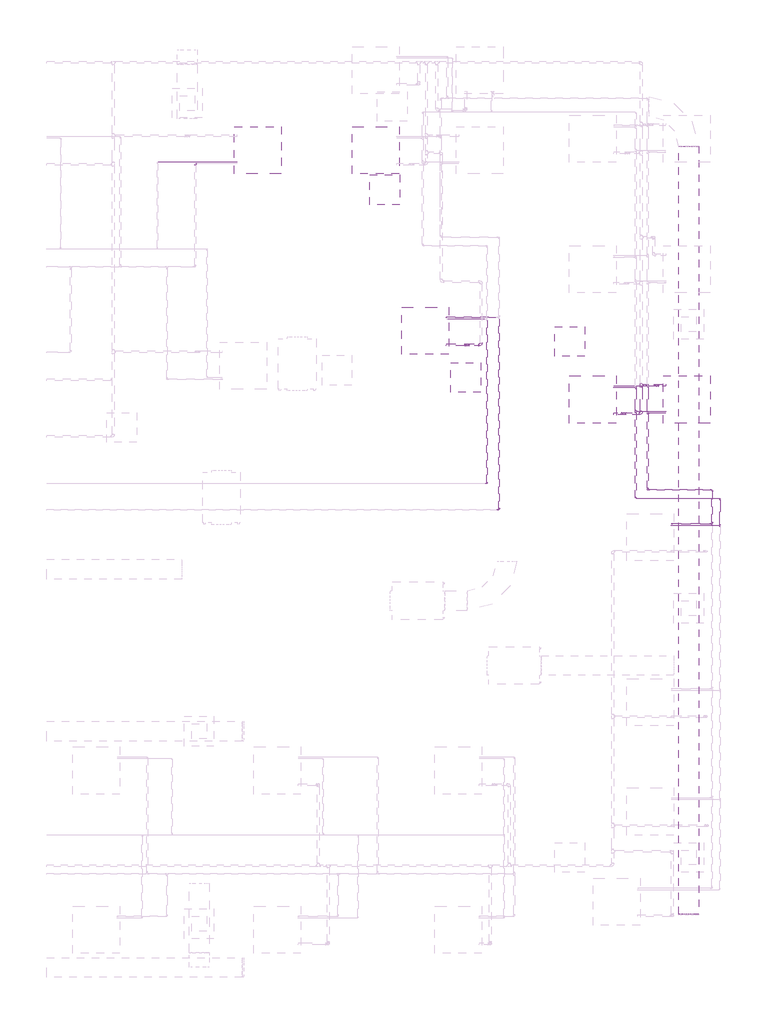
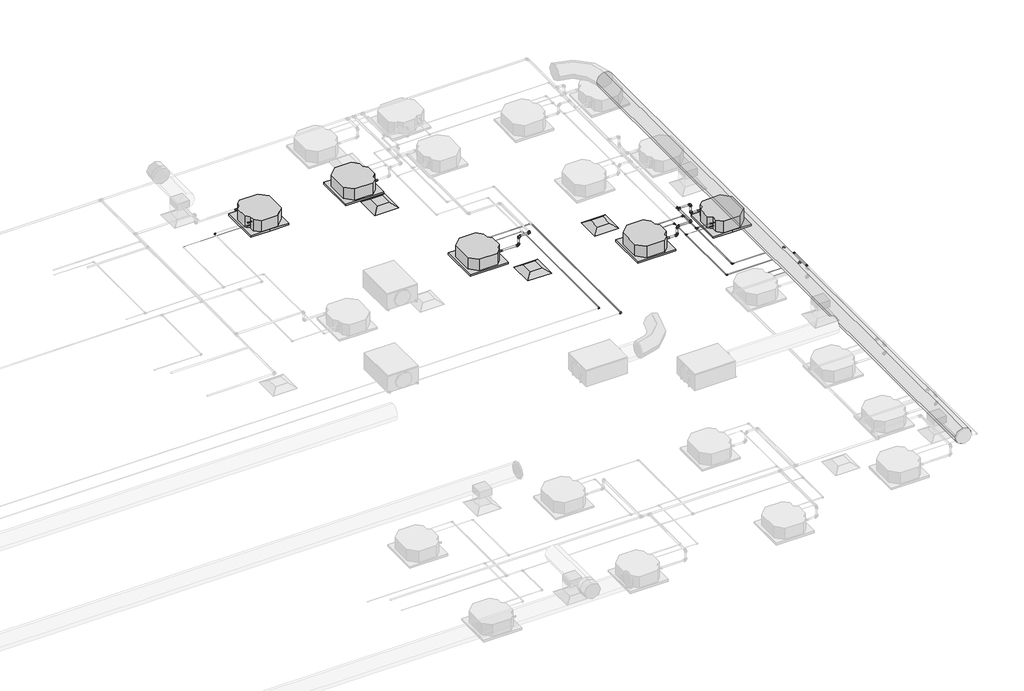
# One storey, part 19 of 22: 36 pipe fittings, 29 pipe segments, 5 proxies, 3 air terminals, 1 duct segment.
"""IFC4 building model written with IfcOpenShell, lengths in millimetres."""

from ifc_helpers import new_model, si_unit, point, frame, frame_2d, origin, place, context, project, spatial, circle_curve, trimmed, segment, composite_curve, outline, extrude, transform, mapped, element, save
from components import air_terminal_ff221211, mechanical_equipment_53173f38, pipe_fitting_144f4440, pipe_fitting_14eb6376, pipe_fitting_8df3e382, pipe_fitting_a6c02e45, pipe_fitting_b4c8926b, pipe_fitting_16c020f5, pipe_fitting_0e110a5f, pipe_fitting_afe73776, pipe_fitting_09966660, pipe_fitting_501e5992, pipe_fitting_59d1f3e3, pipe_fitting_58ab9b66, pipe_fitting_da16c1b3, pipe_fitting_5a6d96d3, pipe_fitting_3e80353c

model = new_model("IFC4")

# Units and contexts
model_context = context("Model", 3, world=origin())
ifc_project = project(units=[si_unit("LENGTHUNIT", "METRE", prefix="MILLI")], contexts=[model_context])

# Site, building, storey
site = spatial("IfcSite", under=ifc_project)
building = spatial("IfcBuilding", under=site)
storey = spatial("IfcBuildingStorey", under=building, Name="Nível 2", Elevation=3880.0)

# Air terminals
placement = place(None, origin())
air_terminal_shape = air_terminal_ff221211(model_context)
element("IfcAirTerminal", 1, ObjectType="M_Difusor de retorno : 600 x 600 Face 300 x 300 Conexão", at=placement, inside=storey, context=model_context, shape_type="MappedRepresentation", body=[
    mapped(air_terminal_shape, transform((27714.7064473, 3874.8993981, 6880.0), x_axis=(-1.0, 0.0, 0.0), y_axis=(0.0, -1.0, 0.0), z_axis=(0.0, 0.0, 1.0))),
])
element("IfcAirTerminal", 2, ObjectType="M_Difusor de retorno : 600 x 600 Face 300 x 300 Conexão", at=placement, inside=storey, context=model_context, shape_type="MappedRepresentation", body=[
    mapped(air_terminal_shape, transform((23981.0509329, 6937.3539749, 6880.0), x_axis=(0.0, -1.0, 0.0), y_axis=(1.0, 0.0, 0.0), z_axis=(0.0, 0.0, 1.0))),
])
element("IfcAirTerminal", 3, ObjectType="M_Difusor de retorno : 600 x 600 Face 300 x 300 Conexão", at=placement, inside=storey, context=model_context, shape_type="MappedRepresentation", body=[
    mapped(air_terminal_shape, transform((25616.9358971, 3144.7054459, 6880.0), x_axis=(-1.0, 0.0, 0.0), y_axis=(0.0, -1.0, 0.0), z_axis=(0.0, 0.0, 1.0))),
])

# Proxies
mechanical_equipment_shape = mechanical_equipment_53173f38(model_context)
element("IfcBuildingElementProxy", 4, Name="Midea_VRF_Indoor_4-way Cassette_MI-90(100,112,140)Q4_DHN1-D (2nd DC) : MI2-140Q4DHN1", ObjectType="Midea_VRF_Indoor_4-way Cassette_MI-90(100,112,140)Q4_DHN1-D (2nd DC) : MI2-140Q4DHN1", at=placement, inside=storey, context=model_context, shape_type="MappedRepresentation", body=[
    mapped(mechanical_equipment_shape, transform((21420.3085305, 7738.4946683, 6880.0), x_axis=(-1.0, 0.0, 0.0), y_axis=(0.0, -1.0, 0.0), z_axis=(0.0, 0.0, 1.0))),
])
element("IfcBuildingElementProxy", 5, Name="Midea_VRF_Indoor_4-way Cassette_MI-90(100,112,140)Q4_DHN1-D (2nd DC) : MI2-140Q4DHN1", ObjectType="Midea_VRF_Indoor_4-way Cassette_MI-90(100,112,140)Q4_DHN1-D (2nd DC) : MI2-140Q4DHN1", at=placement, inside=storey, context=model_context, shape_type="MappedRepresentation", body=[
    mapped(mechanical_equipment_shape, transform((24797.5040419, 4090.4430597, 6880.0), x_axis=(1.0, 0.0, 0.0), y_axis=(0.0, 1.0, 0.0), z_axis=(0.0, 0.0, 1.0))),
])
element("IfcBuildingElementProxy", 6, Name="Midea_VRF_Indoor_4-way Cassette_MI-90(100,112,140)Q4_DHN1-D (2nd DC) : MI2-140Q4DHN1", ObjectType="Midea_VRF_Indoor_4-way Cassette_MI-90(100,112,140)Q4_DHN1-D (2nd DC) : MI2-140Q4DHN1", at=placement, inside=storey, context=model_context, shape_type="MappedRepresentation", body=[
    mapped(mechanical_equipment_shape, transform((23797.5040419, 7738.4946683, 6880.0), x_axis=(1.0, 0.0, 0.0), y_axis=(0.0, 1.0, 0.0), z_axis=(0.0, 0.0, 1.0))),
])
element("IfcBuildingElementProxy", 7, Name="Midea_VRF_Indoor_4-way Cassette_MI-90(100,112,140)Q4_DHN1-D (2nd DC) : MI2-140Q4DHN1", ObjectType="Midea_VRF_Indoor_4-way Cassette_MI-90(100,112,140)Q4_DHN1-D (2nd DC) : MI2-140Q4DHN1", at=placement, inside=storey, context=model_context, shape_type="MappedRepresentation", body=[
    mapped(mechanical_equipment_shape, transform((28178.6922103, 2703.5393119, 6880.0), x_axis=(1.0, 0.0, 0.0), y_axis=(0.0, 1.0, 0.0), z_axis=(0.0, 0.0, 1.0))),
])
element("IfcBuildingElementProxy", 8, Name="Midea_VRF_Indoor_4-way Cassette_MI-90(100,112,140)Q4_DHN1-D (2nd DC) : MI2-140Q4DHN1", ObjectType="Midea_VRF_Indoor_4-way Cassette_MI-90(100,112,140)Q4_DHN1-D (2nd DC) : MI2-140Q4DHN1", at=placement, inside=storey, context=model_context, shape_type="MappedRepresentation", body=[
    mapped(mechanical_equipment_shape, transform((30073.0094066, 2703.5393119, 6880.0), x_axis=(-1.0, 0.0, 0.0), y_axis=(0.0, -1.0, 0.0), z_axis=(0.0, 0.0, 1.0))),
])

# Duct segment
element("IfcDuctSegment", 9, ObjectType="Torneiras / Raio curto", at=placement, inside=storey, context=model_context, shape_type="SweptSolid", body=[
    extrude(outline(composite_curve([segment(trimmed(circle_curve(frame_2d((7501.0, 30114.7064473)), 200.0), [point((7501.0, 29914.7064473))], [point((7301.0, 30114.7064473))], False, "CARTESIAN"), True, "CONTINUOUS"), segment(trimmed(circle_curve(frame_2d((7501.0, 30114.7064473)), 200.0), [point((7301.0, 30114.7064473))], [point((7501.0, 30314.7064473))], False, "CARTESIAN"), True, "CONTINUOUS"), segment(trimmed(circle_curve(frame_2d((7501.0, 30114.7064473)), 200.0), [point((7501.0, 30314.7064473))], [point((7701.0, 30114.7064473))], False, "CARTESIAN"), True, "CONTINUOUS"), segment(trimmed(circle_curve(frame_2d((7501.0, 30114.7064473)), 200.0), [point((7701.0, 30114.7064473))], [point((7501.0, 29914.7064473))], False, "CARTESIAN"), True, "CONTINUOUS")], self_intersect=False)), frame((0.0, -7683.3010158, 0.0), z_axis=(0.0, 1.0, 0.0), x_axis=(0.0, 0.0, 1.0)), (0.0, 0.0, 1.0), 15500.0),
])

# Pipe fittings
pipe_fitting_shape = pipe_fitting_144f4440(model_context)
element("IfcPipeFitting", 10, ObjectType="Cotovelo - PVC - CW : Padrão", at=placement, inside=storey, context=model_context, shape_type="MappedRepresentation", body=[
    mapped(pipe_fitting_shape, transform((28803.6922102, 2418.5393119, 7360.6313654), x_axis=(0.0, 0.0, 1.0), y_axis=(1.0, 0.0, 0.0), z_axis=(0.0, 1.0, 0.0))),
])
element("IfcPipeFitting", 11, ObjectType="Cotovelo - PVC - CW : Padrão", at=placement, inside=storey, context=model_context, shape_type="MappedRepresentation", body=[
    mapped(pipe_fitting_shape, transform((29157.3882959, 2418.5393119, 7360.6313654), x_axis=(1.0, 0.0, 0.0), y_axis=(0.0, 1.0, 0.0), z_axis=(0.0, 0.0, 1.0))),
])
element("IfcPipeFitting", 12, ObjectType="Cotovelo - PVC - CW : Padrão", at=placement, inside=storey, context=model_context, shape_type="MappedRepresentation", body=[
    mapped(pipe_fitting_shape, transform((29468.0094068, 2988.5393119, 7360.6313654), x_axis=(0.0, 0.0, 1.0), y_axis=(-1.0, 0.0, 0.0), z_axis=(0.0, -1.0, 0.0))),
])
element("IfcPipeFitting", 13, ObjectType="Cotovelo - PVC - CW : Padrão", at=placement, inside=storey, context=model_context, shape_type="MappedRepresentation", body=[
    mapped(pipe_fitting_shape, transform((25922.5040418, 3805.4430597, 7360.6313654), x_axis=(1.0, 0.0, 0.0), y_axis=(0.0, 1.0, 0.0), z_axis=(0.0, 0.0, 1.0))),
])
element("IfcPipeFitting", 14, ObjectType="Cotovelo - PVC - CW : Padrão", at=placement, inside=storey, context=model_context, shape_type="MappedRepresentation", body=[
    mapped(pipe_fitting_shape, transform((25642.5040418, 3805.4430597, 7360.6313654), x_axis=(0.0, 0.0, 1.0), y_axis=(1.0, 0.0, 0.0), z_axis=(0.0, 1.0, 0.0))),
])
pipe_fitting_2_shape = pipe_fitting_14eb6376(model_context)
element("IfcPipeFitting", 15, ObjectType="Tê de redução - PVC - CW : Padrão", at=placement, inside=storey, context=model_context, shape_type="MappedRepresentation", body=[
    mapped(pipe_fitting_2_shape, transform((29157.3882959, 2988.5393119, 7360.6313654), x_axis=(0.0, 1.0, 0.0), y_axis=(-1.0, 0.0, 0.0), z_axis=(0.0, 0.0, 1.0))),
])
pipe_fitting_3_shape = pipe_fitting_8df3e382(model_context)
element("IfcPipeFitting", 16, ObjectType="Cotovelo - PVC - CW : Padrão", at=placement, inside=storey, context=model_context, shape_type="MappedRepresentation", body=[
    mapped(pipe_fitting_3_shape, transform((28803.6922102, 2418.5393119, 7132.3), x_axis=(0.9999999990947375, 0.0, -4.255026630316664e-05), y_axis=(4.255026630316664e-05, 0.0, 0.9999999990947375), z_axis=(0.0, -1.0, 0.0))),
])
pipe_fitting_4_shape = pipe_fitting_a6c02e45(model_context)
element("IfcPipeFitting", 17, ObjectType="Cotovelo - PVC - CW : Padrão", at=placement, inside=storey, context=model_context, shape_type="MappedRepresentation", body=[
    mapped(pipe_fitting_4_shape, transform((29468.0094068, 2988.5393119, 7132.3), x_axis=(-0.9999999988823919, 0.0, -4.72780736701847e-05), y_axis=(-4.72780736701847e-05, 0.0, 0.9999999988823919), z_axis=(0.0, 1.0, 0.0))),
])
pipe_fitting_5_shape = pipe_fitting_b4c8926b(model_context)
element("IfcPipeFitting", 18, ObjectType="Cotovelo - PVC - CW : Padrão", at=placement, inside=storey, context=model_context, shape_type="MappedRepresentation", body=[
    mapped(pipe_fitting_5_shape, transform((25642.5040418, 3805.4430597, 7132.3), x_axis=(0.9999999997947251, 0.0, -2.0262031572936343e-05), y_axis=(2.0262031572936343e-05, 0.0, 0.9999999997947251), z_axis=(0.0, -1.0, 0.0))),
])
pipe_fitting_6_shape = pipe_fitting_16c020f5(model_context)
element("IfcPipeFitting", 19, ObjectType="Cotovelo - Soldado - CU : Padrão", at=placement, inside=storey, context=model_context, shape_type="MappedRepresentation", body=[
    mapped(pipe_fitting_6_shape, transform((20155.3085305, 7465.2838546, 7132.3), x_axis=(-0.9999999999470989, 0.0, -1.0286027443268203e-05), y_axis=(0.0, -1.0, 0.0), z_axis=(-1.0286027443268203e-05, 0.0, 0.9999999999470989))),
])
pipe_fitting_7_shape = pipe_fitting_0e110a5f(model_context)
element("IfcPipeFitting", 20, ObjectType="Cotovelo - Soldado - CU : Padrão", at=placement, inside=storey, context=model_context, shape_type="MappedRepresentation", body=[
    mapped(pipe_fitting_7_shape, transform((30586.1108591, 879.9222462, 7132.3), x_axis=(0.0, 1.0, 0.0), y_axis=(-1.0, 0.0, 0.0), z_axis=(0.0, 0.0, 1.0))),
])
element("IfcPipeFitting", 21, ObjectType="Cotovelo - Soldado - CU : Padrão", at=placement, inside=storey, context=model_context, shape_type="MappedRepresentation", body=[
    mapped(pipe_fitting_7_shape, transform((29286.1108591, 879.9222462, 7132.3), x_axis=(0.0, -1.0, 0.0), y_axis=(1.0, 0.0, 0.0), z_axis=(0.0, 0.0, 1.0))),
])
element("IfcPipeFitting", 22, ObjectType="Cotovelo - Soldado - CU : Padrão", at=placement, inside=storey, context=model_context, shape_type="MappedRepresentation", body=[
    mapped(pipe_fitting_7_shape, transform((26286.1108591, 473.4586233, 7132.3), x_axis=(1.0, 0.0, 0.0), y_axis=(0.0, 1.0, 0.0), z_axis=(0.0, 0.0, 1.0))),
])
pipe_fitting_8_shape = pipe_fitting_afe73776(model_context)
element("IfcPipeFitting", 23, ObjectType="Bucha de redução reta - Soldada - CU : Padrão", at=placement, inside=storey, context=model_context, shape_type="MappedRepresentation", body=[
    mapped(pipe_fitting_8_shape, transform((29316.2713591, 2430.3284982, 7132.3007349), x_axis=(0.9999999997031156, 0.0, 2.4367374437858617e-05), y_axis=(0.0, 1.0000000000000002, 0.0), z_axis=(-2.4367374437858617e-05, 0.0, 0.9999999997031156))),
])
element("IfcPipeFitting", 24, ObjectType="Bucha de redução reta - Soldada - CU : Padrão", at=placement, inside=storey, context=model_context, shape_type="MappedRepresentation", body=[
    mapped(pipe_fitting_8_shape, transform((29255.9503592, 2976.7501256, 7132.3003888), x_axis=(-0.9999999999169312, 0.0, 1.2889435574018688e-05), y_axis=(0.0, -1.0, 0.0), z_axis=(1.2889435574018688e-05, 0.0, 0.9999999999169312))),
])
element("IfcPipeFitting", 25, ObjectType="Bucha de redução reta - Soldada - CU : Padrão", at=placement, inside=storey, context=model_context, shape_type="MappedRepresentation", body=[
    mapped(pipe_fitting_8_shape, transform((30555.9503592, 196.0476784, 7132.3008348), x_axis=(-0.9999999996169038, 0.0, 2.768018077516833e-05), y_axis=(0.0, -1.0, 0.0), z_axis=(2.768018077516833e-05, 0.0, 0.9999999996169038))),
])
pipe_fitting_9_shape = pipe_fitting_09966660(model_context)
element("IfcPipeFitting", 26, ObjectType="Tê - Soldado - CU : Padrão", at=placement, inside=storey, context=model_context, shape_type="MappedRepresentation", body=[
    mapped(pipe_fitting_9_shape, transform((29286.1108591, 2430.3284982, 7132.3), x_axis=(0.0, -1.0, 0.0), y_axis=(-0.9999999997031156, 0.0, -2.4367374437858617e-05), z_axis=(2.4367374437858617e-05, 0.0, -0.9999999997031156))),
])
element("IfcPipeFitting", 27, ObjectType="Tê - Soldado - CU : Padrão", at=placement, inside=storey, context=model_context, shape_type="MappedRepresentation", body=[
    mapped(pipe_fitting_9_shape, transform((29286.1108591, 2976.7501256, 7132.3), x_axis=(0.0, -1.0, 0.0), y_axis=(0.9999999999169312, 0.0, -1.2889435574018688e-05), z_axis=(1.2889435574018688e-05, 0.0, 0.9999999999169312))),
])
element("IfcPipeFitting", 28, ObjectType="Tê - Soldado - CU : Padrão", at=placement, inside=storey, context=model_context, shape_type="MappedRepresentation", body=[
    mapped(pipe_fitting_9_shape, transform((30586.1108591, 196.0476784, 7132.3), x_axis=(0.0, -1.0, 0.0), y_axis=(0.9999999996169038, 0.0, -2.768018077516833e-05), z_axis=(2.768018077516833e-05, 0.0, 0.9999999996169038))),
])
pipe_fitting_10_shape = pipe_fitting_501e5992(model_context)
element("IfcPipeFitting", 29, ObjectType="Bucha de redução reta - Soldada - CU : Padrão", at=placement, inside=storey, context=model_context, shape_type="MappedRepresentation", body=[
    mapped(pipe_fitting_10_shape, transform((25235.1629419, 4363.6538733, 7132.3084075), x_axis=(-0.9999999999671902, 0.0, 8.100591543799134e-06), y_axis=(0.0, -1.0, 0.0), z_axis=(8.100591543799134e-06, 0.0, 0.9999999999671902))),
])
element("IfcPipeFitting", 30, ObjectType="Bucha de redução reta - Soldada - CU : Padrão", at=placement, inside=storey, context=model_context, shape_type="MappedRepresentation", body=[
    mapped(pipe_fitting_10_shape, transform((29635.3505066, 2430.3284982, 7132.3082016), x_axis=(0.9999999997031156, 0.0, 2.4367374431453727e-05), y_axis=(0.0, 1.0000000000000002, 0.0), z_axis=(-2.4367374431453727e-05, 0.0, 0.9999999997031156))),
])
element("IfcPipeFitting", 31, ObjectType="Bucha de redução reta - Soldada - CU : Padrão", at=placement, inside=storey, context=model_context, shape_type="MappedRepresentation", body=[
    mapped(pipe_fitting_10_shape, transform((28616.3511103, 2976.7501256, 7132.3083494), x_axis=(-0.9999999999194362, 0.0, 1.2693608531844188e-05), y_axis=(0.0, -1.0000000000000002, 0.0), z_axis=(1.2693608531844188e-05, 0.0, 0.9999999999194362))),
])
element("IfcPipeFitting", 32, ObjectType="Bucha de redução reta - Soldada - CU : Padrão", at=placement, inside=storey, context=model_context, shape_type="MappedRepresentation", body=[
    mapped(pipe_fitting_10_shape, transform((29778.6687465, 196.0476784, 7132.3081597), x_axis=(-0.9999999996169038, 0.0, 2.768018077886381e-05), y_axis=(0.0, -1.0, 0.0), z_axis=(2.768018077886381e-05, 0.0, 0.9999999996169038))),
])
pipe_fitting_11_shape = pipe_fitting_59d1f3e3(model_context)
element("IfcPipeFitting", 33, ObjectType="Bucha de redução reta - Soldada - CU : Padrão", at=placement, inside=storey, context=model_context, shape_type="MappedRepresentation", body=[
    mapped(pipe_fitting_11_shape, transform((20995.3085305, 7499.0862964, 7026.8446487), x_axis=(-1.0, 0.0, 0.0), y_axis=(0.0, -1.0, 0.0), z_axis=(0.0, 0.0, 1.0))),
])
pipe_fitting_12_shape = pipe_fitting_58ab9b66(model_context)
element("IfcPipeFitting", 34, ObjectType="Bucha de redução reta - Soldada - CU : Padrão", at=placement, inside=storey, context=model_context, shape_type="MappedRepresentation", body=[
    mapped(pipe_fitting_12_shape, transform((29775.6842465, 162.2452366, 7026.8446487), x_axis=(-1.0, 0.0, 0.0), y_axis=(0.0, -1.0, 0.0), z_axis=(0.0, 0.0, 1.0))),
])
element("IfcPipeFitting", 35, ObjectType="Bucha de redução reta - Soldada - CU : Padrão", at=placement, inside=storey, context=model_context, shape_type="MappedRepresentation", body=[
    mapped(pipe_fitting_12_shape, transform((29638.3350066, 2464.1309401, 7026.8446487), x_axis=(1.0, 0.0, 0.0), y_axis=(0.0, 1.0, 0.0), z_axis=(0.0, 0.0, 1.0))),
])
element("IfcPipeFitting", 36, ObjectType="Bucha de redução reta - Soldada - CU : Padrão", at=placement, inside=storey, context=model_context, shape_type="MappedRepresentation", body=[
    mapped(pipe_fitting_12_shape, transform((28613.3666103, 2942.9476837, 7026.8446487), x_axis=(-1.0, 0.0, 0.0), y_axis=(0.0, -1.0, 0.0), z_axis=(0.0, 0.0, 1.0))),
])
pipe_fitting_13_shape = pipe_fitting_da16c1b3(model_context)
element("IfcPipeFitting", 37, ObjectType="Tê - Soldado - CU : Padrão", at=placement, inside=storey, context=model_context, shape_type="MappedRepresentation", body=[
    mapped(pipe_fitting_13_shape, transform((30746.1108592, 162.2452366, 7026.8446487), x_axis=(0.0, -1.0, 0.0), y_axis=(1.0, 0.0, 0.0), z_axis=(0.0, 0.0, 1.0))),
])
element("IfcPipeFitting", 38, ObjectType="Tê - Soldado - CU : Padrão", at=placement, inside=storey, context=model_context, shape_type="MappedRepresentation", body=[
    mapped(pipe_fitting_13_shape, transform((29046.1108592, 2464.1309401, 7026.8446487), x_axis=(0.0, -1.0, 0.0), y_axis=(-1.0, 0.0, 0.0), z_axis=(0.0, 0.0, -1.0))),
])
element("IfcPipeFitting", 39, ObjectType="Tê - Soldado - CU : Padrão", at=placement, inside=storey, context=model_context, shape_type="MappedRepresentation", body=[
    mapped(pipe_fitting_13_shape, transform((29046.1108592, 2942.9476837, 7026.8446487), x_axis=(0.0, -1.0, 0.0), y_axis=(1.0, 0.0, 0.0), z_axis=(0.0, 0.0, 1.0))),
])
pipe_fitting_14_shape = pipe_fitting_5a6d96d3(model_context)
element("IfcPipeFitting", 40, ObjectType="Bucha de redução reta - Soldada - CU : Padrão", at=placement, inside=storey, context=model_context, shape_type="MappedRepresentation", body=[
    mapped(pipe_fitting_14_shape, transform((30721.0938592, 162.2452366, 7026.8446487), x_axis=(-1.0, 0.0, 0.0), y_axis=(0.0, -1.0, 0.0), z_axis=(0.0, 0.0, 1.0))),
])
element("IfcPipeFitting", 41, ObjectType="Bucha de redução reta - Soldada - CU : Padrão", at=placement, inside=storey, context=model_context, shape_type="MappedRepresentation", body=[
    mapped(pipe_fitting_14_shape, transform((29071.1278592, 2464.1309401, 7026.8446487), x_axis=(1.0, 0.0, 0.0), y_axis=(0.0, 1.0, 0.0), z_axis=(0.0, 0.0, 1.0))),
])
element("IfcPipeFitting", 42, ObjectType="Bucha de redução reta - Soldada - CU : Padrão", at=placement, inside=storey, context=model_context, shape_type="MappedRepresentation", body=[
    mapped(pipe_fitting_14_shape, transform((29021.0938592, 2942.9476837, 7026.8446487), x_axis=(-1.0, 0.0, 0.0), y_axis=(0.0, -1.0, 0.0), z_axis=(0.0, 0.0, 1.0))),
])
pipe_fitting_15_shape = pipe_fitting_3e80353c(model_context)
element("IfcPipeFitting", 43, ObjectType="Cotovelo - Soldado - CU : Padrão", at=placement, inside=storey, context=model_context, shape_type="MappedRepresentation", body=[
    mapped(pipe_fitting_15_shape, transform((30746.1108592, 706.1198044, 7026.8446487), x_axis=(0.0, 1.0, 0.0), y_axis=(-1.0, 0.0, 0.0), z_axis=(0.0, 0.0, 1.0))),
])
element("IfcPipeFitting", 44, ObjectType="Cotovelo - Soldado - CU : Padrão", at=placement, inside=storey, context=model_context, shape_type="MappedRepresentation", body=[
    mapped(pipe_fitting_15_shape, transform((29046.1108592, 706.1198044, 7026.8446487), x_axis=(0.0, -1.0, 0.0), y_axis=(1.0, 0.0, 0.0), z_axis=(0.0, 0.0, 1.0))),
])
element("IfcPipeFitting", 45, ObjectType="Cotovelo - Soldado - CU : Padrão", at=placement, inside=storey, context=model_context, shape_type="MappedRepresentation", body=[
    mapped(pipe_fitting_15_shape, transform((26046.1108592, 1004.7679315, 7026.8446487), x_axis=(1.0, 0.0, 0.0), y_axis=(0.0, 1.0, 0.0), z_axis=(0.0, 0.0, 1.0))),
])

# Pipe segments
element("IfcPipeSegment", 46, ObjectType="Tubos de cobre HVAC", at=placement, inside=storey, context=model_context, shape_type="SweptSolid", body=[
    extrude(outline(composite_curve([segment(trimmed(circle_curve(frame_2d((7132.3, 30586.1108591)), 9.525), [point((7132.3, 30595.6358591))], [point((7141.825, 30586.1108591))], False, "CARTESIAN"), True, "CONTINUOUS"), segment(trimmed(circle_curve(frame_2d((7132.3, 30586.1108591)), 9.525), [point((7141.825, 30586.1108591))], [point((7132.3, 30576.5858591))], False, "CARTESIAN"), True, "CONTINUOUS"), segment(trimmed(circle_curve(frame_2d((7132.3, 30586.1108591)), 9.525), [point((7132.3, 30576.5858591))], [point((7122.775, 30586.1108591))], False, "CARTESIAN"), True, "CONTINUOUS"), segment(trimmed(circle_curve(frame_2d((7132.3, 30586.1108591)), 9.525), [point((7122.775, 30586.1108591))], [point((7132.3, 30595.6358591))], False, "CARTESIAN"), True, "CONTINUOUS")], self_intersect=False)), frame((0.0, 226.2429284, 0.0), z_axis=(0.0, 1.0, 0.0), x_axis=(0.0, 0.0, 1.0)), (0.0, 0.0, 1.0), 622.2203178),
])
element("IfcPipeSegment", 47, ObjectType="Tubos de cobre HVAC", at=placement, inside=storey, context=model_context, shape_type="SweptSolid", body=[
    extrude(outline(composite_curve([segment(trimmed(circle_curve(frame_2d((879.9222462, 7132.3)), 9.525), [point((889.4472462, 7132.3))], [point((879.9222462, 7122.775))], False, "CARTESIAN"), True, "CONTINUOUS"), segment(trimmed(circle_curve(frame_2d((879.9222462, 7132.3)), 9.525), [point((879.9222462, 7122.775))], [point((870.3972462, 7132.3))], False, "CARTESIAN"), True, "CONTINUOUS"), segment(trimmed(circle_curve(frame_2d((879.9222462, 7132.3)), 9.525), [point((870.3972462, 7132.3))], [point((879.9222462, 7141.825))], False, "CARTESIAN"), True, "CONTINUOUS"), segment(trimmed(circle_curve(frame_2d((879.9222462, 7132.3)), 9.525), [point((879.9222462, 7141.825))], [point((889.4472462, 7132.3))], False, "CARTESIAN"), True, "CONTINUOUS")], self_intersect=False)), frame((29317.5698591, 0.0, 0.0), z_axis=(1.0, 0.0, 0.0), x_axis=(0.0, 1.0, 0.0)), (0.0, 0.0, 1.0), 1237.082),
])
element("IfcPipeSegment", 48, ObjectType="Tubos de cobre HVAC", at=placement, inside=storey, context=model_context, shape_type="SweptSolid", body=[
    extrude(outline(composite_curve([segment(trimmed(circle_curve(frame_2d((7132.3, 26286.1108591)), 9.525), [point((7132.3, 26276.5858591))], [point((7122.775, 26286.1108591))], False, "CARTESIAN"), True, "CONTINUOUS"), segment(trimmed(circle_curve(frame_2d((7132.3, 26286.1108591)), 9.525), [point((7122.775, 26286.1108591))], [point((7132.3, 26295.6358591))], False, "CARTESIAN"), True, "CONTINUOUS"), segment(trimmed(circle_curve(frame_2d((7132.3, 26286.1108591)), 9.525), [point((7132.3, 26295.6358591))], [point((7141.825, 26286.1108591))], False, "CARTESIAN"), True, "CONTINUOUS"), segment(trimmed(circle_curve(frame_2d((7132.3, 26286.1108591)), 9.525), [point((7141.825, 26286.1108591))], [point((7132.3, 26276.5858591))], False, "CARTESIAN"), True, "CONTINUOUS")], self_intersect=False)), frame((0.0, 504.9176233, 0.0), z_axis=(0.0, 1.0, 0.0), x_axis=(0.0, 0.0, 1.0)), (0.0, 0.0, 1.0), 3828.541),
])
element("IfcPipeSegment", 49, ObjectType="Tubos de cobre HVAC", at=placement, inside=storey, context=model_context, shape_type="SweptSolid", body=[
    extrude(outline(composite_curve([segment(trimmed(circle_curve(frame_2d((0.0, 7.935)), 7.935), [point((-7.935, 7.935))], [point((0.0, 15.87))], False, "CARTESIAN"), True, "CONTINUOUS"), segment(trimmed(circle_curve(frame_2d((0.0, 7.935)), 7.935), [point((0.0, 15.87))], [point((7.935, 7.935))], False, "CARTESIAN"), True, "CONTINUOUS"), segment(trimmed(circle_curve(frame_2d((0.0, 7.935)), 7.935), [point((7.935, 7.935))], [point((0.0, 0.0))], False, "CARTESIAN"), True, "CONTINUOUS"), segment(trimmed(circle_curve(frame_2d((0.0, 7.935)), 7.935), [point((0.0, 0.0))], [point((-7.935, 7.935))], False, "CARTESIAN"), True, "CONTINUOUS")], self_intersect=False)), frame((26243.2913949, 4363.6538733, 7124.3653436), z_axis=(-0.9999999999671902, 0.0, 8.100591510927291e-06), x_axis=(0.0, -1.0, 0.0)), (0.0, 0.0, 1.0), 1008.1285173),
])
element("IfcPipeSegment", 50, ObjectType="Tubos de cobre HVAC", at=placement, inside=storey, context=model_context, shape_type="SweptSolid", body=[
    extrude(outline(composite_curve([segment(trimmed(circle_curve(frame_2d((0.0, 7.935)), 7.935), [point((-7.935, 7.935))], [point((0.0, 15.87))], False, "CARTESIAN"), True, "CONTINUOUS"), segment(trimmed(circle_curve(frame_2d((0.0, 7.935)), 7.935), [point((0.0, 15.87))], [point((7.935, 7.935))], False, "CARTESIAN"), True, "CONTINUOUS"), segment(trimmed(circle_curve(frame_2d((0.0, 7.935)), 7.935), [point((7.935, 7.935))], [point((0.0, 0.0))], False, "CARTESIAN"), True, "CONTINUOUS"), segment(trimmed(circle_curve(frame_2d((0.0, 7.935)), 7.935), [point((0.0, 0.0))], [point((-7.935, 7.935))], False, "CARTESIAN"), True, "CONTINUOUS")], self_intersect=False)), frame((29328.9304445, 2430.3284982, 7124.3660434), z_axis=(0.9999999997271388, 0.0, 2.336070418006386e-05), x_axis=(0.0, 1.0, 0.0)), (0.0, 0.0, 1.0), 306.4202475),
])
element("IfcPipeSegment", 51, ObjectType="Tubos de cobre HVAC", at=placement, inside=storey, context=model_context, shape_type="SweptSolid", body=[
    extrude(outline(composite_curve([segment(trimmed(circle_curve(frame_2d((7132.3, 29286.1108591)), 9.525), [point((7132.3, 29295.6358591))], [point((7141.825, 29286.1108591))], False, "CARTESIAN"), True, "CONTINUOUS"), segment(trimmed(circle_curve(frame_2d((7132.3, 29286.1108591)), 9.525), [point((7141.825, 29286.1108591))], [point((7132.3, 29276.5858591))], False, "CARTESIAN"), True, "CONTINUOUS"), segment(trimmed(circle_curve(frame_2d((7132.3, 29286.1108591)), 9.525), [point((7132.3, 29276.5858591))], [point((7122.775, 29286.1108591))], False, "CARTESIAN"), True, "CONTINUOUS"), segment(trimmed(circle_curve(frame_2d((7132.3, 29286.1108591)), 9.525), [point((7122.775, 29286.1108591))], [point((7132.3, 29295.6358591))], False, "CARTESIAN"), True, "CONTINUOUS")], self_intersect=False)), frame((0.0, 911.3812462, 0.0), z_axis=(0.0, 1.0, 0.0), x_axis=(0.0, 0.0, 1.0)), (0.0, 0.0, 1.0), 1488.752002),
])
element("IfcPipeSegment", 52, ObjectType="Tubos de cobre HVAC", at=placement, inside=storey, context=model_context, shape_type="SweptSolid", body=[
    extrude(outline(composite_curve([segment(trimmed(circle_curve(frame_2d((0.0, 7.935)), 7.935), [point((-7.935, 7.935))], [point((0.0, 15.87))], False, "CARTESIAN"), True, "CONTINUOUS"), segment(trimmed(circle_curve(frame_2d((0.0, 7.935)), 7.935), [point((0.0, 15.87))], [point((7.935, 7.935))], False, "CARTESIAN"), True, "CONTINUOUS"), segment(trimmed(circle_curve(frame_2d((0.0, 7.935)), 7.935), [point((7.935, 7.935))], [point((0.0, 0.0))], False, "CARTESIAN"), True, "CONTINUOUS"), segment(trimmed(circle_curve(frame_2d((0.0, 7.935)), 7.935), [point((0.0, 0.0))], [point((-7.935, 7.935))], False, "CARTESIAN"), True, "CONTINUOUS")], self_intersect=False)), frame((29243.2913584, 2976.7501256, 7124.3655519), z_axis=(-0.9999999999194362, 0.0, 1.269360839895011e-05), x_axis=(0.0, -1.0, 0.0)), (0.0, 0.0, 1.0), 626.9403489),
])
element("IfcPipeSegment", 53, ObjectType="Tubos de cobre HVAC", at=placement, inside=storey, context=model_context, shape_type="SweptSolid", body=[
    extrude(outline(composite_curve([segment(trimmed(circle_curve(frame_2d((7132.3, 29286.1108591)), 9.525), [point((7132.3, 29295.6358591))], [point((7141.825, 29286.1108591))], False, "CARTESIAN"), True, "CONTINUOUS"), segment(trimmed(circle_curve(frame_2d((7132.3, 29286.1108591)), 9.525), [point((7141.825, 29286.1108591))], [point((7132.3, 29276.5858591))], False, "CARTESIAN"), True, "CONTINUOUS"), segment(trimmed(circle_curve(frame_2d((7132.3, 29286.1108591)), 9.525), [point((7132.3, 29276.5858591))], [point((7122.775, 29286.1108591))], False, "CARTESIAN"), True, "CONTINUOUS"), segment(trimmed(circle_curve(frame_2d((7132.3, 29286.1108591)), 9.525), [point((7122.775, 29286.1108591))], [point((7132.3, 29295.6358591))], False, "CARTESIAN"), True, "CONTINUOUS")], self_intersect=False)), frame((0.0, 2460.5237482, 0.0), z_axis=(0.0, 1.0, 0.0), x_axis=(0.0, 0.0, 1.0)), (0.0, 0.0, 1.0), 486.0311273),
])
element("IfcPipeSegment", 54, ObjectType="Tubos de cobre HVAC", at=placement, inside=storey, context=model_context, shape_type="SweptSolid", body=[
    extrude(outline(composite_curve([segment(trimmed(circle_curve(frame_2d((0.0, 7.935)), 7.935), [point((-7.935, 7.935))], [point((0.0, 15.87))], False, "CARTESIAN"), True, "CONTINUOUS"), segment(trimmed(circle_curve(frame_2d((0.0, 7.935)), 7.935), [point((0.0, 15.87))], [point((7.935, 7.935))], False, "CARTESIAN"), True, "CONTINUOUS"), segment(trimmed(circle_curve(frame_2d((0.0, 7.935)), 7.935), [point((7.935, 7.935))], [point((0.0, 0.0))], False, "CARTESIAN"), True, "CONTINUOUS"), segment(trimmed(circle_curve(frame_2d((0.0, 7.935)), 7.935), [point((0.0, 0.0))], [point((-7.935, 7.935))], False, "CARTESIAN"), True, "CONTINUOUS")], self_intersect=False)), frame((30543.2913868, 196.0476784, 7124.3661852), z_axis=(-0.9999999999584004, 0.0, 9.121366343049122e-06), x_axis=(0.0, -1.0, 0.0)), (0.0, 0.0, 1.0), 764.6227127),
])
element("IfcPipeSegment", 55, ObjectType="Tubos de cobre HVAC", at=placement, inside=storey, context=model_context, shape_type="SweptSolid", body=[
    extrude(outline(composite_curve([segment(trimmed(circle_curve(frame_2d((7026.8446487, 30746.1108592)), 6.35), [point((7026.8446487, 30752.4608592))], [point((7033.1946487, 30746.1108592))], False, "CARTESIAN"), True, "CONTINUOUS"), segment(trimmed(circle_curve(frame_2d((7026.8446487, 30746.1108592)), 6.35), [point((7033.1946487, 30746.1108592))], [point((7026.8446487, 30739.7608592))], False, "CARTESIAN"), True, "CONTINUOUS"), segment(trimmed(circle_curve(frame_2d((7026.8446487, 30746.1108592)), 6.35), [point((7026.8446487, 30739.7608592))], [point((7020.4946487, 30746.1108592))], False, "CARTESIAN"), True, "CONTINUOUS"), segment(trimmed(circle_curve(frame_2d((7026.8446487, 30746.1108592)), 6.35), [point((7020.4946487, 30746.1108592))], [point((7026.8446487, 30752.4608592))], False, "CARTESIAN"), True, "CONTINUOUS")], self_intersect=False)), frame((0.0, 187.3287366, 0.0), z_axis=(0.0, 1.0, 0.0), x_axis=(0.0, 0.0, 1.0)), (0.0, 0.0, 1.0), 492.2850678),
])
element("IfcPipeSegment", 56, ObjectType="Tubos de cobre HVAC", at=placement, inside=storey, context=model_context, shape_type="SweptSolid", body=[
    extrude(outline(composite_curve([segment(trimmed(circle_curve(frame_2d((706.1198044, 7026.8446487)), 6.35), [point((712.4698044, 7026.8446487))], [point((706.1198044, 7020.4946487))], False, "CARTESIAN"), True, "CONTINUOUS"), segment(trimmed(circle_curve(frame_2d((706.1198044, 7026.8446487)), 6.35), [point((706.1198044, 7020.4946487))], [point((699.7698044, 7026.8446487))], False, "CARTESIAN"), True, "CONTINUOUS"), segment(trimmed(circle_curve(frame_2d((706.1198044, 7026.8446487)), 6.35), [point((699.7698044, 7026.8446487))], [point((706.1198044, 7033.1946487))], False, "CARTESIAN"), True, "CONTINUOUS"), segment(trimmed(circle_curve(frame_2d((706.1198044, 7026.8446487)), 6.35), [point((706.1198044, 7033.1946487))], [point((712.4698044, 7026.8446487))], False, "CARTESIAN"), True, "CONTINUOUS")], self_intersect=False)), frame((29072.6168592, 0.0, 0.0), z_axis=(1.0, 0.0, 0.0), x_axis=(0.0, 1.0, 0.0)), (0.0, 0.0, 1.0), 1646.988),
])
element("IfcPipeSegment", 57, ObjectType="Tubos de cobre HVAC", at=placement, inside=storey, context=model_context, shape_type="SweptSolid", body=[
    extrude(outline(composite_curve([segment(trimmed(circle_curve(frame_2d((7026.8446487, 26046.1108592)), 6.35), [point((7026.8446487, 26039.7608592))], [point((7020.4946487, 26046.1108592))], False, "CARTESIAN"), True, "CONTINUOUS"), segment(trimmed(circle_curve(frame_2d((7026.8446487, 26046.1108592)), 6.35), [point((7020.4946487, 26046.1108592))], [point((7026.8446487, 26052.4608592))], False, "CARTESIAN"), True, "CONTINUOUS"), segment(trimmed(circle_curve(frame_2d((7026.8446487, 26046.1108592)), 6.35), [point((7026.8446487, 26052.4608592))], [point((7033.1946487, 26046.1108592))], False, "CARTESIAN"), True, "CONTINUOUS"), segment(trimmed(circle_curve(frame_2d((7026.8446487, 26046.1108592)), 6.35), [point((7033.1946487, 26046.1108592))], [point((7026.8446487, 26039.7608592))], False, "CARTESIAN"), True, "CONTINUOUS")], self_intersect=False)), frame((0.0, 1031.2739315, 0.0), z_axis=(0.0, 1.0, 0.0), x_axis=(0.0, 0.0, 1.0)), (0.0, 0.0, 1.0), 3273.494),
])
element("IfcPipeSegment", 58, ObjectType="Tubos de cobre HVAC", at=placement, inside=storey, context=model_context, shape_type="SweptSolid", body=[
    extrude(outline(composite_curve([segment(trimmed(circle_curve(frame_2d((162.2452366, 7026.8446487)), 4.76), [point((167.0052366, 7026.8446487))], [point((162.2452366, 7022.0846487))], False, "CARTESIAN"), True, "CONTINUOUS"), segment(trimmed(circle_curve(frame_2d((162.2452366, 7026.8446487)), 4.76), [point((162.2452366, 7022.0846487))], [point((157.4852366, 7026.8446487))], False, "CARTESIAN"), True, "CONTINUOUS"), segment(trimmed(circle_curve(frame_2d((162.2452366, 7026.8446487)), 4.76), [point((157.4852366, 7026.8446487))], [point((162.2452366, 7031.6046487))], False, "CARTESIAN"), True, "CONTINUOUS"), segment(trimmed(circle_curve(frame_2d((162.2452366, 7026.8446487)), 4.76), [point((162.2452366, 7031.6046487))], [point((167.0052366, 7026.8446487))], False, "CARTESIAN"), True, "CONTINUOUS")], self_intersect=False)), frame((29775.6842465, 0.0, 0.0), z_axis=(1.0, 0.0, 0.0), x_axis=(0.0, 1.0, 0.0)), (0.0, 0.0, 1.0), 935.7352127),
])
element("IfcPipeSegment", 59, ObjectType="Tubos de cobre HVAC", at=placement, inside=storey, context=model_context, shape_type="SweptSolid", body=[
    extrude(outline(composite_curve([segment(trimmed(circle_curve(frame_2d((2464.1309401, 7026.8446487)), 4.76), [point((2459.3709401, 7026.8446487))], [point((2464.1309401, 7031.6046487))], False, "CARTESIAN"), True, "CONTINUOUS"), segment(trimmed(circle_curve(frame_2d((2464.1309401, 7026.8446487)), 4.76), [point((2464.1309401, 7031.6046487))], [point((2468.8909401, 7026.8446487))], False, "CARTESIAN"), True, "CONTINUOUS"), segment(trimmed(circle_curve(frame_2d((2464.1309401, 7026.8446487)), 4.76), [point((2468.8909401, 7026.8446487))], [point((2464.1309401, 7022.0846487))], False, "CARTESIAN"), True, "CONTINUOUS"), segment(trimmed(circle_curve(frame_2d((2464.1309401, 7026.8446487)), 4.76), [point((2464.1309401, 7022.0846487))], [point((2459.3709401, 7026.8446487))], False, "CARTESIAN"), True, "CONTINUOUS")], self_intersect=False)), frame((29080.8022592, 0.0, 0.0), z_axis=(1.0, 0.0, 0.0), x_axis=(0.0, 1.0, 0.0)), (0.0, 0.0, 1.0), 557.5327474),
])
element("IfcPipeSegment", 60, ObjectType="Tubos de cobre HVAC", at=placement, inside=storey, context=model_context, shape_type="SweptSolid", body=[
    extrude(outline(composite_curve([segment(trimmed(circle_curve(frame_2d((7026.8446487, 29046.1108592)), 6.35), [point((7026.8446487, 29052.4608592))], [point((7033.1946487, 29046.1108592))], False, "CARTESIAN"), True, "CONTINUOUS"), segment(trimmed(circle_curve(frame_2d((7026.8446487, 29046.1108592)), 6.35), [point((7033.1946487, 29046.1108592))], [point((7026.8446487, 29039.7608592))], False, "CARTESIAN"), True, "CONTINUOUS"), segment(trimmed(circle_curve(frame_2d((7026.8446487, 29046.1108592)), 6.35), [point((7026.8446487, 29039.7608592))], [point((7020.4946487, 29046.1108592))], False, "CARTESIAN"), True, "CONTINUOUS"), segment(trimmed(circle_curve(frame_2d((7026.8446487, 29046.1108592)), 6.35), [point((7020.4946487, 29046.1108592))], [point((7026.8446487, 29052.4608592))], False, "CARTESIAN"), True, "CONTINUOUS")], self_intersect=False)), frame((0.0, 732.6258044, 0.0), z_axis=(0.0, 1.0, 0.0), x_axis=(0.0, 0.0, 1.0)), (0.0, 0.0, 1.0), 1706.4216357),
])
element("IfcPipeSegment", 61, ObjectType="Tubos de cobre HVAC", at=placement, inside=storey, context=model_context, shape_type="SweptSolid", body=[
    extrude(outline(composite_curve([segment(trimmed(circle_curve(frame_2d((2942.9476837, 7026.8446487)), 4.76), [point((2947.7076837, 7026.8446487))], [point((2942.9476837, 7022.0846487))], False, "CARTESIAN"), True, "CONTINUOUS"), segment(trimmed(circle_curve(frame_2d((2942.9476837, 7026.8446487)), 4.76), [point((2942.9476837, 7022.0846487))], [point((2938.1876837, 7026.8446487))], False, "CARTESIAN"), True, "CONTINUOUS"), segment(trimmed(circle_curve(frame_2d((2942.9476837, 7026.8446487)), 4.76), [point((2938.1876837, 7026.8446487))], [point((2942.9476837, 7031.6046487))], False, "CARTESIAN"), True, "CONTINUOUS"), segment(trimmed(circle_curve(frame_2d((2942.9476837, 7026.8446487)), 4.76), [point((2942.9476837, 7031.6046487))], [point((2947.7076837, 7026.8446487))], False, "CARTESIAN"), True, "CONTINUOUS")], self_intersect=False)), frame((28613.3666103, 0.0, 0.0), z_axis=(1.0, 0.0, 0.0), x_axis=(0.0, 1.0, 0.0)), (0.0, 0.0, 1.0), 398.0528488),
])
element("IfcPipeSegment", 62, ObjectType="Tubos de cobre HVAC", at=placement, inside=storey, context=model_context, shape_type="SweptSolid", body=[
    extrude(outline(composite_curve([segment(trimmed(circle_curve(frame_2d((7026.8446487, 29046.1108592)), 6.35), [point((7026.8446487, 29052.4608592))], [point((7033.1946487, 29046.1108592))], False, "CARTESIAN"), True, "CONTINUOUS"), segment(trimmed(circle_curve(frame_2d((7026.8446487, 29046.1108592)), 6.35), [point((7033.1946487, 29046.1108592))], [point((7026.8446487, 29039.7608592))], False, "CARTESIAN"), True, "CONTINUOUS"), segment(trimmed(circle_curve(frame_2d((7026.8446487, 29046.1108592)), 6.35), [point((7026.8446487, 29039.7608592))], [point((7020.4946487, 29046.1108592))], False, "CARTESIAN"), True, "CONTINUOUS"), segment(trimmed(circle_curve(frame_2d((7026.8446487, 29046.1108592)), 6.35), [point((7020.4946487, 29046.1108592))], [point((7026.8446487, 29052.4608592))], False, "CARTESIAN"), True, "CONTINUOUS")], self_intersect=False)), frame((0.0, 2489.2144401, 0.0), z_axis=(0.0, 1.0, 0.0), x_axis=(0.0, 0.0, 1.0)), (0.0, 0.0, 1.0), 428.6497437),
])
element("IfcPipeSegment", 63, ObjectType="Tubos de cobre HVAC", at=placement, inside=storey, context=model_context, shape_type="SweptSolid", body=[
    extrude(outline(composite_curve([segment(trimmed(circle_curve(frame_2d((4329.8514315, 7026.8446487)), 4.76), [point((4334.6114315, 7026.8446487))], [point((4329.8514315, 7022.0846487))], False, "CARTESIAN"), True, "CONTINUOUS"), segment(trimmed(circle_curve(frame_2d((4329.8514315, 7026.8446487)), 4.76), [point((4329.8514315, 7022.0846487))], [point((4325.0914315, 7026.8446487))], False, "CARTESIAN"), True, "CONTINUOUS"), segment(trimmed(circle_curve(frame_2d((4329.8514315, 7026.8446487)), 4.76), [point((4325.0914315, 7026.8446487))], [point((4329.8514315, 7031.6046487))], False, "CARTESIAN"), True, "CONTINUOUS"), segment(trimmed(circle_curve(frame_2d((4329.8514315, 7026.8446487)), 4.76), [point((4329.8514315, 7031.6046487))], [point((4334.6114315, 7026.8446487))], False, "CARTESIAN"), True, "CONTINUOUS")], self_intersect=False)), frame((25232.1784419, 0.0, 0.0), z_axis=(1.0, 0.0, 0.0), x_axis=(0.0, 1.0, 0.0)), (0.0, 0.0, 1.0), 779.2410173),
])
element("IfcPipeSegment", 64, ObjectType="Tubos de cobre HVAC", at=placement, inside=storey, context=model_context, shape_type="SweptSolid", body=[
    extrude(outline(composite_curve([segment(trimmed(circle_curve(frame_2d((7499.0862964, 7026.8446487)), 4.76), [point((7503.8462964, 7026.8446487))], [point((7499.0862964, 7022.0846487))], False, "CARTESIAN"), True, "CONTINUOUS"), segment(trimmed(circle_curve(frame_2d((7499.0862964, 7026.8446487)), 4.76), [point((7499.0862964, 7022.0846487))], [point((7494.3262964, 7026.8446487))], False, "CARTESIAN"), True, "CONTINUOUS"), segment(trimmed(circle_curve(frame_2d((7499.0862964, 7026.8446487)), 4.76), [point((7494.3262964, 7026.8446487))], [point((7499.0862964, 7031.6046487))], False, "CARTESIAN"), True, "CONTINUOUS"), segment(trimmed(circle_curve(frame_2d((7499.0862964, 7026.8446487)), 4.76), [point((7499.0862964, 7031.6046487))], [point((7503.8462964, 7026.8446487))], False, "CARTESIAN"), True, "CONTINUOUS")], self_intersect=False)), frame((19419.3341305, 0.0, 0.0), z_axis=(1.0, 0.0, 0.0), x_axis=(0.0, 1.0, 0.0)), (0.0, 0.0, 1.0), 1566.3),
])
element("IfcPipeSegment", 65, ObjectType="Plástico", at=placement, inside=storey, context=model_context, shape_type="SweptSolid", body=[
    extrude(outline(composite_curve([segment(trimmed(circle_curve(frame_2d((0.0, -20.0)), 20.0), [point((-20.0, -20.0))], [point((0.0, 0.0))], False, "CARTESIAN"), True, "CONTINUOUS"), segment(trimmed(circle_curve(frame_2d((0.0, -20.0)), 20.0), [point((0.0, 0.0))], [point((20.0, -20.0))], False, "CARTESIAN"), True, "CONTINUOUS"), segment(trimmed(circle_curve(frame_2d((0.0, -20.0)), 20.0), [point((20.0, -20.0))], [point((0.0, -40.0))], False, "CARTESIAN"), True, "CONTINUOUS"), segment(trimmed(circle_curve(frame_2d((0.0, -20.0)), 20.0), [point((0.0, -40.0))], [point((-20.0, -20.0))], False, "CARTESIAN"), True, "CONTINUOUS")], self_intersect=False)), frame((28758.6903805, 2418.5393119, 7112.3019148), z_axis=(-0.9999999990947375, 0.0, 4.255026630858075e-05), x_axis=(0.0, 1.0, 0.0)), (0.0, 0.0, 1.0), 154.9990213),
])
element("IfcPipeSegment", 66, ObjectType="Plástico", at=placement, inside=storey, context=model_context, shape_type="SweptSolid", body=[
    extrude(outline(composite_curve([segment(trimmed(circle_curve(frame_2d((28803.6922102, 2418.5393119)), 20.0), [point((28823.6922102, 2418.5393119))], [point((28803.6922102, 2398.5393119))], False, "CARTESIAN"), True, "CONTINUOUS"), segment(trimmed(circle_curve(frame_2d((28803.6922102, 2418.5393119)), 20.0), [point((28803.6922102, 2398.5393119))], [point((28783.6922102, 2418.5393119))], False, "CARTESIAN"), True, "CONTINUOUS"), segment(trimmed(circle_curve(frame_2d((28803.6922102, 2418.5393119)), 20.0), [point((28783.6922102, 2418.5393119))], [point((28803.6922102, 2438.5393119))], False, "CARTESIAN"), True, "CONTINUOUS"), segment(trimmed(circle_curve(frame_2d((28803.6922102, 2418.5393119)), 20.0), [point((28803.6922102, 2438.5393119))], [point((28823.6922102, 2418.5393119))], False, "CARTESIAN"), True, "CONTINUOUS")], self_intersect=False)), frame((0.0, 0.0, 7177.3009787), z_axis=(0.0, 0.0, 1.0), x_axis=(1.0, 0.0, 0.0)), (0.0, 0.0, 1.0), 138.3303868),
])
element("IfcPipeSegment", 67, ObjectType="Plástico", at=placement, inside=storey, context=model_context, shape_type="SweptSolid", body=[
    extrude(outline(composite_curve([segment(trimmed(circle_curve(frame_2d((2418.5393119, 7360.6313654)), 20.0), [point((2398.5393119, 7360.6313654))], [point((2418.5393119, 7380.6313654))], False, "CARTESIAN"), True, "CONTINUOUS"), segment(trimmed(circle_curve(frame_2d((2418.5393119, 7360.6313654)), 20.0), [point((2418.5393119, 7380.6313654))], [point((2438.5393119, 7360.6313654))], False, "CARTESIAN"), True, "CONTINUOUS"), segment(trimmed(circle_curve(frame_2d((2418.5393119, 7360.6313654)), 20.0), [point((2438.5393119, 7360.6313654))], [point((2418.5393119, 7340.6313654))], False, "CARTESIAN"), True, "CONTINUOUS"), segment(trimmed(circle_curve(frame_2d((2418.5393119, 7360.6313654)), 20.0), [point((2418.5393119, 7340.6313654))], [point((2398.5393119, 7360.6313654))], False, "CARTESIAN"), True, "CONTINUOUS")], self_intersect=False)), frame((28848.6922102, 0.0, 0.0), z_axis=(1.0, 0.0, 0.0), x_axis=(0.0, 1.0, 0.0)), (0.0, 0.0, 1.0), 263.6960858),
])
element("IfcPipeSegment", 68, ObjectType="Plástico", at=placement, inside=storey, context=model_context, shape_type="SweptSolid", body=[
    extrude(outline(composite_curve([segment(trimmed(circle_curve(frame_2d((7360.6313654, 29157.3882959)), 20.0), [point((7360.6313654, 29137.3882959))], [point((7340.6313654, 29157.3882959))], False, "CARTESIAN"), True, "CONTINUOUS"), segment(trimmed(circle_curve(frame_2d((7360.6313654, 29157.3882959)), 20.0), [point((7340.6313654, 29157.3882959))], [point((7360.6313654, 29177.3882959))], False, "CARTESIAN"), True, "CONTINUOUS"), segment(trimmed(circle_curve(frame_2d((7360.6313654, 29157.3882959)), 20.0), [point((7360.6313654, 29177.3882959))], [point((7380.6313654, 29157.3882959))], False, "CARTESIAN"), True, "CONTINUOUS"), segment(trimmed(circle_curve(frame_2d((7360.6313654, 29157.3882959)), 20.0), [point((7380.6313654, 29157.3882959))], [point((7360.6313654, 29137.3882959))], False, "CARTESIAN"), True, "CONTINUOUS")], self_intersect=False)), frame((0.0, 2463.5393119, 0.0), z_axis=(0.0, 1.0, 0.0), x_axis=(0.0, 0.0, 1.0)), (0.0, 0.0, 1.0), 481.75),
])
element("IfcPipeSegment", 69, ObjectType="Plástico", at=placement, inside=storey, context=model_context, shape_type="SweptSolid", body=[
    extrude(outline(composite_curve([segment(trimmed(circle_curve(frame_2d((0.0, -20.0)), 20.0), [point((-20.0, -20.0))], [point((0.0, 0.0))], False, "CARTESIAN"), True, "CONTINUOUS"), segment(trimmed(circle_curve(frame_2d((0.0, -20.0)), 20.0), [point((0.0, 0.0))], [point((20.0, -20.0))], False, "CARTESIAN"), True, "CONTINUOUS"), segment(trimmed(circle_curve(frame_2d((0.0, -20.0)), 20.0), [point((20.0, -20.0))], [point((0.0, -39.9999999))], False, "CARTESIAN"), True, "CONTINUOUS"), segment(trimmed(circle_curve(frame_2d((0.0, -20.0)), 20.0), [point((0.0, -39.9999999))], [point((-20.0, -20.0))], False, "CARTESIAN"), True, "CONTINUOUS")], self_intersect=False)), frame((29513.0114397, 2988.5393119, 7112.3021276), z_axis=(0.9999999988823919, 0.0, 4.7278073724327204e-05), x_axis=(0.0, -1.0, 0.0)), (0.0, 0.0, 1.0), 134.9989126),
])
element("IfcPipeSegment", 70, ObjectType="Plástico", at=placement, inside=storey, context=model_context, shape_type="SweptSolid", body=[
    extrude(outline(composite_curve([segment(trimmed(circle_curve(frame_2d((29468.0094068, 2988.5393119)), 20.0), [point((29488.0094068, 2988.5393119))], [point((29468.0094068, 2968.5393119))], False, "CARTESIAN"), True, "CONTINUOUS"), segment(trimmed(circle_curve(frame_2d((29468.0094068, 2988.5393119)), 20.0), [point((29468.0094068, 2968.5393119))], [point((29448.0094068, 2988.5393119))], False, "CARTESIAN"), True, "CONTINUOUS"), segment(trimmed(circle_curve(frame_2d((29468.0094068, 2988.5393119)), 20.0), [point((29448.0094068, 2988.5393119))], [point((29468.0094068, 3008.5393119))], False, "CARTESIAN"), True, "CONTINUOUS"), segment(trimmed(circle_curve(frame_2d((29468.0094068, 2988.5393119)), 20.0), [point((29468.0094068, 3008.5393119))], [point((29488.0094068, 2988.5393119))], False, "CARTESIAN"), True, "CONTINUOUS")], self_intersect=False)), frame((0.0, 0.0, 7177.3010874), z_axis=(0.0, 0.0, 1.0), x_axis=(1.0, 0.0, 0.0)), (0.0, 0.0, 1.0), 138.330278),
])
element("IfcPipeSegment", 71, ObjectType="Plástico", at=placement, inside=storey, context=model_context, shape_type="SweptSolid", body=[
    extrude(outline(composite_curve([segment(trimmed(circle_curve(frame_2d((2988.5393119, 7360.6313654)), 20.0), [point((2968.5393119, 7360.6313654))], [point((2988.5393119, 7380.6313654))], False, "CARTESIAN"), True, "CONTINUOUS"), segment(trimmed(circle_curve(frame_2d((2988.5393119, 7360.6313654)), 20.0), [point((2988.5393119, 7380.6313654))], [point((3008.5393119, 7360.6313654))], False, "CARTESIAN"), True, "CONTINUOUS"), segment(trimmed(circle_curve(frame_2d((2988.5393119, 7360.6313654)), 20.0), [point((3008.5393119, 7360.6313654))], [point((2988.5393119, 7340.6313654))], False, "CARTESIAN"), True, "CONTINUOUS"), segment(trimmed(circle_curve(frame_2d((2988.5393119, 7360.6313654)), 20.0), [point((2988.5393119, 7340.6313654))], [point((2968.5393119, 7360.6313654))], False, "CARTESIAN"), True, "CONTINUOUS")], self_intersect=False)), frame((29201.3882959, 0.0, 0.0), z_axis=(1.0, 0.0, 0.0), x_axis=(0.0, 1.0, 0.0)), (0.0, 0.0, 1.0), 221.6211108),
])
element("IfcPipeSegment", 72, ObjectType="Plástico", at=placement, inside=storey, context=model_context, shape_type="SweptSolid", body=[
    extrude(outline(composite_curve([segment(trimmed(circle_curve(frame_2d((0.0, -20.0)), 20.0), [point((-20.0, -20.0))], [point((0.0, 0.0))], False, "CARTESIAN"), True, "CONTINUOUS"), segment(trimmed(circle_curve(frame_2d((0.0, -20.0)), 20.0), [point((0.0, 0.0))], [point((20.0, -20.0))], False, "CARTESIAN"), True, "CONTINUOUS"), segment(trimmed(circle_curve(frame_2d((0.0, -20.0)), 20.0), [point((20.0, -20.0))], [point((0.0, -40.0))], False, "CARTESIAN"), True, "CONTINUOUS"), segment(trimmed(circle_curve(frame_2d((0.0, -20.0)), 20.0), [point((0.0, -40.0))], [point((-20.0, -20.0))], False, "CARTESIAN"), True, "CONTINUOUS")], self_intersect=False)), frame((25597.5031705, 3805.4430597, 7112.3009118), z_axis=(-0.9999999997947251, 0.0, 2.026203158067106e-05), x_axis=(0.0, 1.0, 0.0)), (0.0, 0.0, 1.0), 374.999534),
])
element("IfcPipeSegment", 73, ObjectType="Plástico", at=placement, inside=storey, context=model_context, shape_type="SweptSolid", body=[
    extrude(outline(composite_curve([segment(trimmed(circle_curve(frame_2d((25642.5040418, 3805.4430597)), 20.0), [point((25662.5040418, 3805.4430597))], [point((25642.5040418, 3785.4430597))], False, "CARTESIAN"), True, "CONTINUOUS"), segment(trimmed(circle_curve(frame_2d((25642.5040418, 3805.4430597)), 20.0), [point((25642.5040418, 3785.4430597))], [point((25622.5040418, 3805.4430597))], False, "CARTESIAN"), True, "CONTINUOUS"), segment(trimmed(circle_curve(frame_2d((25642.5040418, 3805.4430597)), 20.0), [point((25622.5040418, 3805.4430597))], [point((25642.5040418, 3825.4430597))], False, "CARTESIAN"), True, "CONTINUOUS"), segment(trimmed(circle_curve(frame_2d((25642.5040418, 3805.4430597)), 20.0), [point((25642.5040418, 3825.4430597))], [point((25662.5040418, 3805.4430597))], False, "CARTESIAN"), True, "CONTINUOUS")], self_intersect=False)), frame((0.0, 0.0, 7177.300466), z_axis=(0.0, 0.0, 1.0), x_axis=(1.0, 0.0, 0.0)), (0.0, 0.0, 1.0), 138.3308994),
])
element("IfcPipeSegment", 74, ObjectType="Plástico", at=placement, inside=storey, context=model_context, shape_type="SweptSolid", body=[
    extrude(outline(composite_curve([segment(trimmed(circle_curve(frame_2d((3805.4430597, 7360.6313654)), 20.0), [point((3825.4430597, 7360.6313654))], [point((3805.4430597, 7340.6313654))], False, "CARTESIAN"), True, "CONTINUOUS"), segment(trimmed(circle_curve(frame_2d((3805.4430597, 7360.6313654)), 20.0), [point((3805.4430597, 7340.6313654))], [point((3785.4430597, 7360.6313654))], False, "CARTESIAN"), True, "CONTINUOUS"), segment(trimmed(circle_curve(frame_2d((3805.4430597, 7360.6313654)), 20.0), [point((3785.4430597, 7360.6313654))], [point((3805.4430597, 7380.6313654))], False, "CARTESIAN"), True, "CONTINUOUS"), segment(trimmed(circle_curve(frame_2d((3805.4430597, 7360.6313654)), 20.0), [point((3805.4430597, 7380.6313654))], [point((3825.4430597, 7360.6313654))], False, "CARTESIAN"), True, "CONTINUOUS")], self_intersect=False)), frame((25687.5040418, 0.0, 0.0), z_axis=(1.0, 0.0, 0.0), x_axis=(0.0, 1.0, 0.0)), (0.0, 0.0, 1.0), 190.0),
])

save(model, "model.ifc")
